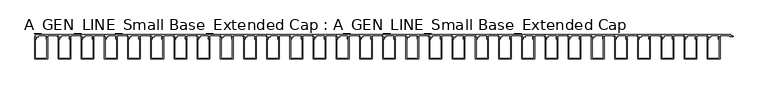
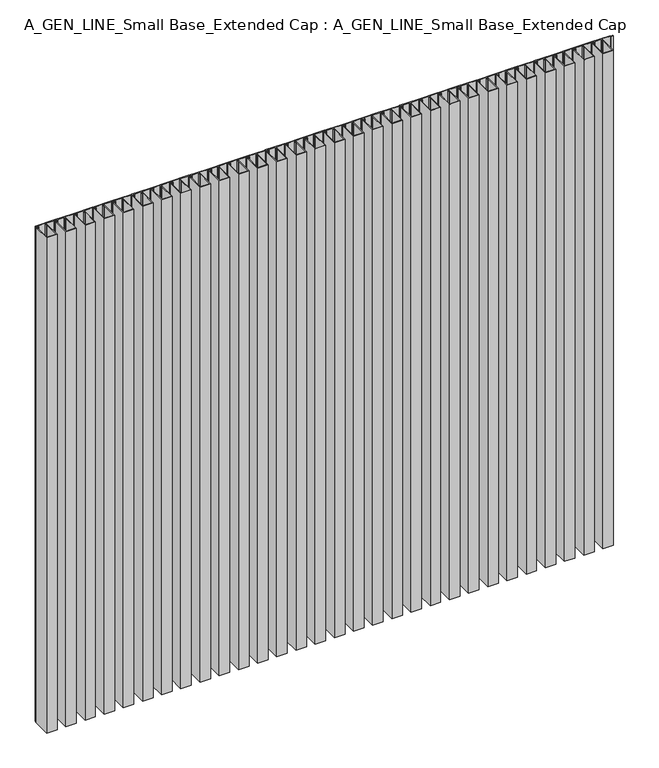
"""IFC4 building model written with IfcOpenShell, lengths in millimetres: proxy geometry, A_GEN_LINE_Small Base_Extended Cap : A_GEN_LINE_Small Base_Extended Cap."""

import ifcopenshell
import ifcopenshell.guid

model = None  # the IFC model being written
_history = None  # IfcOwnerHistory: only IFC2X3 demands one
_inside = {}  # id of a spatial element -> (the spatial element, [elements in it])
_under = {}  # id of a project, library or spatial element -> (it, [spatial elements below it])
_declared = {}  # id of a project -> (the project, [libraries it declares])
_typed = {}  # id of a type object -> (the type object, [elements of that type])
_made_of = {}  # id of a material, layer set ... -> (it, [elements and type objects made of it])


def new_model(schema):
    """Start an empty IFC model of exactly this schema.

    Asked for "IFC4X3", IfcOpenShell would pick the latest addendum, in which some entities
    have other attributes; the version numbers below select the first issue.
    IFC2X3 requires an IfcOwnerHistory on every rooted entity: one is made here for all.
    """
    global model, _history
    if schema == "IFC4X3":
        model = ifcopenshell.file(schema_version=(4, 3, 0, 0))
    else:
        model = ifcopenshell.file(schema=schema)
    _inside.clear()
    _under.clear()
    _declared.clear()
    _typed.clear()
    _made_of.clear()
    _history = None
    if model.schema == "IFC2X3":
        org = make("IfcOrganization", Name="unknown")
        user = make(
            "IfcPersonAndOrganization",
            ThePerson=make("IfcPerson", FamilyName="unknown"),
            TheOrganization=org,
        )
        app = make(
            "IfcApplication",
            ApplicationDeveloper=org,
            Version="unknown",
            ApplicationFullName="unknown",
            ApplicationIdentifier="unknown",
        )
        _history = make(
            "IfcOwnerHistory",
            OwningUser=user,
            OwningApplication=app,
            ChangeAction="ADDED",
            CreationDate=0,
        )
    return model


def make(cls, **values):
    """One entity of the class cls with the attributes given. An attribute that is None is left unset."""
    return model.create_entity(
        cls, **{name: value for name, value in values.items() if value is not None}
    )


def rooted(cls, **values):
    """An entity with a GlobalId (a new one), such as an element, a storey or a relation."""
    return make(cls, GlobalId=ifcopenshell.guid.new(), OwnerHistory=_history, **values)


def si_unit(unit_type, name, prefix=None):
    """IfcSIUnit, for example si_unit("LENGTHUNIT", "METRE", prefix="MILLI")."""
    return make("IfcSIUnit", UnitType=unit_type, Prefix=prefix, Name=name)


def assignment(units):
    """IfcUnitAssignment: the units of a project."""
    return None if units is None else make("IfcUnitAssignment", Units=units)


def point(xyz):
    """IfcCartesianPoint."""
    return None if xyz is None else make("IfcCartesianPoint", Coordinates=xyz)


def direction(xyz):
    """IfcDirection."""
    return None if xyz is None else make("IfcDirection", DirectionRatios=xyz)


def frame(location, z_axis=None, x_axis=None):
    """IfcAxis2Placement3D, a coordinate frame: its origin and axes. An axis left out is left unset."""
    return make(
        "IfcAxis2Placement3D",
        Location=point(location),
        Axis=direction(z_axis),
        RefDirection=direction(x_axis),
    )


def origin():
    """The frame at (0, 0, 0) with its axes left unset."""
    return frame((0.0, 0.0, 0.0))


def origin_with_axes():
    """The frame at (0, 0, 0) with the z axis (0, 0, 1) and the x axis (1, 0, 0) written out."""
    return frame((0.0, 0.0, 0.0), z_axis=(0.0, 0.0, 1.0), x_axis=(1.0, 0.0, 0.0))


def place(relative_to, where):
    """IfcLocalPlacement: puts the frame where relative to a parent placement (None: the world)."""
    return make(
        "IfcLocalPlacement", PlacementRelTo=relative_to, RelativePlacement=where
    )


def context(
    kind, dimensions, precision=None, world=None, true_north=None, identifier=None
):
    """IfcGeometricRepresentationContext, for example the 3D "Model" context."""
    return make(
        "IfcGeometricRepresentationContext",
        ContextIdentifier=identifier,
        ContextType=kind,
        CoordinateSpaceDimension=dimensions,
        Precision=precision,
        WorldCoordinateSystem=world,
        TrueNorth=true_north,
    )


def project(units=None, contexts=None):
    """IfcProject with its units and contexts."""
    return rooted(
        "IfcProject",
        Name="project",
        RepresentationContexts=contexts,
        UnitsInContext=assignment(units),
    )


def spatial(cls, under=None, at=None, **own):
    """A site, building, storey or space (cls), placed at a placement, below another one or the project."""
    s = rooted(cls, ObjectPlacement=at, **own)
    if under is not None:
        _under.setdefault(under.id(), (under, []))[1].append(s)
    return s


def polyline(points):
    """IfcPolyline through the points."""
    return make("IfcPolyline", Points=[point(p) for p in points])


def outline(outer, holes=None, kind="AREA"):
    """IfcArbitraryClosedProfileDef: a profile drawn as a closed curve; with holes, ...WithVoids."""
    if holes is None:
        return make("IfcArbitraryClosedProfileDef", ProfileType=kind, OuterCurve=outer)
    return make(
        "IfcArbitraryProfileDefWithVoids",
        ProfileType=kind,
        OuterCurve=outer,
        InnerCurves=holes,
    )


def extrude(swept, where, along, depth):
    """IfcExtrudedAreaSolid: the profile swept, set in the frame where, extruded along a direction by depth."""
    return make(
        "IfcExtrudedAreaSolid",
        SweptArea=swept,
        Position=where,
        ExtrudedDirection=direction(along),
        Depth=depth,
    )


def shape(context_of_items, identifier, shape_type, items):
    """IfcShapeRepresentation: the items that make up one representation, for example the "Body"."""
    return make(
        "IfcShapeRepresentation",
        ContextOfItems=context_of_items,
        RepresentationIdentifier=identifier,
        RepresentationType=shape_type,
        Items=items,
    )


def source(mapping_origin, context_of_items, identifier, shape_type, items):
    """IfcRepresentationMap: a shape defined once, which mapped items show again and again."""
    return make(
        "IfcRepresentationMap",
        MappingOrigin=mapping_origin,
        MappedRepresentation=shape(context_of_items, identifier, shape_type, items),
    )


def transform(
    local_origin,
    x_axis=None,
    y_axis=None,
    z_axis=None,
    scale=None,
    scale2=None,
    scale3=None,
    uniform=True,
):
    """IfcCartesianTransformationOperator3D, or its non-uniform kind. x_axis, y_axis, z_axis: its Axis1, 2, 3."""
    if uniform:
        return make(
            "IfcCartesianTransformationOperator3D",
            Axis1=direction(x_axis),
            Axis2=direction(y_axis),
            LocalOrigin=point(local_origin),
            Scale=scale,
            Axis3=direction(z_axis),
        )
    return make(
        "IfcCartesianTransformationOperator3DnonUniform",
        Axis1=direction(x_axis),
        Axis2=direction(y_axis),
        LocalOrigin=point(local_origin),
        Scale=scale,
        Axis3=direction(z_axis),
        Scale2=scale2,
        Scale3=scale3,
    )


def mapped(mapping_source, mapping_target):
    """IfcMappedItem: shows the shape of a source again, moved by a transform."""
    return make(
        "IfcMappedItem", MappingSource=mapping_source, MappingTarget=mapping_target
    )


def made_of(thing, what):
    """Note that an element or type object is made of a material, layer set ...; save() writes the relation."""
    if what is not None:
        _made_of.setdefault(what.id(), (what, []))[1].append(thing)
    return thing


def element(
    cls,
    number,
    at=None,
    inside=None,
    cuts=None,
    type_object=None,
    material=None,
    context=None,
    identifier="Body",
    shape_type=None,
    held_by="IfcProductDefinitionShape",
    body=None,
    shapes=None,
    **own,
):
    """One element of the class cls, such as IfcWall. Its Tag is "e" and its number.

    at: its placement. inside: the storey or other place that contains it. cuts: it is an
    opening in that element (IfcRelVoidsElement). A single representation is given by context,
    identifier, shape_type and body (its items); several are given by shapes. held_by: the class
    of the entity that holds the representations. save() writes the other relations.
    """
    e = rooted(cls, Tag="e%d" % number, ObjectPlacement=at, **own)
    if body is not None:
        shapes = [shape(context, identifier, shape_type, body)]
    if shapes is not None:
        e.Representation = make(held_by, Representations=shapes)
    if inside is not None:
        _inside.setdefault(inside.id(), (inside, []))[1].append(e)
    if cuts is not None:
        rooted(
            "IfcRelVoidsElement", RelatingBuildingElement=cuts, RelatedOpeningElement=e
        )
    if type_object is not None:
        _typed.setdefault(type_object.id(), (type_object, []))[1].append(e)
    return made_of(e, material)


def aggregate(whole, parts):
    """IfcRelAggregates: a whole, such as a stair, and the parts it consists of."""
    return rooted("IfcRelAggregates", RelatingObject=whole, RelatedObjects=parts)


def save(model, path):
    """Write the relations noted so far, then the file.

    IfcRelAggregates (storeys below a building ...), IfcRelContainedInSpatialStructure (elements
    in a storey), IfcRelDefinesByType, IfcRelAssociatesMaterial and IfcRelDeclares: one each for
    every whole, place, type object, material and project.
    """
    for whole, parts in _under.values():
        aggregate(whole, parts)
    for where, things in _inside.values():
        rooted(
            "IfcRelContainedInSpatialStructure",
            RelatedElements=things,
            RelatingStructure=where,
        )
    for kind, things in _typed.values():
        rooted("IfcRelDefinesByType", RelatedObjects=things, RelatingType=kind)
    for what, things in _made_of.values():
        rooted("IfcRelAssociatesMaterial", RelatedObjects=things, RelatingMaterial=what)
    for by, libraries in _declared.values():
        rooted("IfcRelDeclares", RelatingContext=by, RelatedDefinitions=libraries)
    model.write(path)


def a_gen_line_small_base_extended_cap_a_gen_line_small_base_7a9827a8(model_context):
    return source(origin(), model_context, "Body", "SweptSolid", [
        extrude(outline(polyline([(1594.5994542, -58.2007192), (1594.5994542, -6.1), (1596.7484612, -6.1), (1596.7484612, -8.3419727), (1595.9994542, -8.5826662), (1595.9994542, -56.8007192), (1623.1994542, -56.8007192), (1623.1994542, -8.5826662), (1622.4504472, -8.3419727), (1622.4504472, -6.1), (1624.5994542, -6.1), (1624.5994542, -58.2007192), (1594.5994542, -58.2007192)])), origin_with_axes(), (0.0, 0.0, 1.0), 1500.0),
        extrude(outline(polyline([(1539.5989548, -58.2007192), (1539.5989548, -6.1), (1541.7479618, -6.1), (1541.7479618, -8.3419727), (1540.9989548, -8.5826662), (1540.9989548, -56.8007192), (1568.1989548, -56.8007192), (1568.1989548, -8.5826662), (1567.4499478, -8.3419727), (1567.4499478, -6.1), (1569.5989548, -6.1), (1569.5989548, -58.2007192), (1539.5989548, -58.2007192)])), origin_with_axes(), (0.0, 0.0, 1.0), 1500.0),
        extrude(outline(polyline([(1484.5984554, -58.2007192), (1484.5984554, -6.1), (1486.7474624, -6.1), (1486.7474624, -8.3419727), (1485.9984554, -8.5826662), (1485.9984554, -56.8007192), (1513.1984554, -56.8007192), (1513.1984554, -8.5826662), (1512.4494485, -8.3419727), (1512.4494485, -6.1), (1514.5984554, -6.1), (1514.5984554, -58.2007192), (1484.5984554, -58.2007192)])), origin_with_axes(), (0.0, 0.0, 1.0), 1500.0),
        extrude(outline(polyline([(1429.597956, -58.2007192), (1429.597956, -6.1), (1431.746963, -6.1), (1431.746963, -8.3419727), (1430.997956, -8.5826662), (1430.997956, -56.8007192), (1458.197956, -56.8007192), (1458.197956, -8.5826662), (1457.4489491, -8.3419727), (1457.4489491, -6.1), (1459.597956, -6.1), (1459.597956, -58.2007192), (1429.597956, -58.2007192)])), origin_with_axes(), (0.0, 0.0, 1.0), 1500.0),
        extrude(outline(polyline([(1374.5974566, -58.2007192), (1374.5974566, -6.1), (1376.7464636, -6.1), (1376.7464636, -8.3419727), (1375.9974566, -8.5826662), (1375.9974566, -56.8007192), (1403.1974566, -56.8007192), (1403.1974566, -8.5826662), (1402.4484497, -8.3419727), (1402.4484497, -6.1), (1404.5974566, -6.1), (1404.5974566, -58.2007192), (1374.5974566, -58.2007192)])), origin_with_axes(), (0.0, 0.0, 1.0), 1500.0),
        extrude(outline(polyline([(1319.5969572, -58.2007192), (1319.5969572, -6.1), (1321.7459642, -6.1), (1321.7459642, -8.3419727), (1320.9969572, -8.5826662), (1320.9969572, -56.8007192), (1348.1969572, -56.8007192), (1348.1969572, -8.5826662), (1347.4479503, -8.3419727), (1347.4479503, -6.1), (1349.5969572, -6.1), (1349.5969572, -58.2007192), (1319.5969572, -58.2007192)])), origin_with_axes(), (0.0, 0.0, 1.0), 1500.0),
        extrude(outline(polyline([(1264.5964579, -58.2007192), (1264.5964579, -6.1), (1266.7454648, -6.1), (1266.7454648, -8.3419727), (1265.9964579, -8.5826662), (1265.9964579, -56.8007192), (1293.1964579, -56.8007192), (1293.1964579, -8.5826662), (1292.4474509, -8.3419727), (1292.4474509, -6.1), (1294.5964579, -6.1), (1294.5964579, -58.2007192), (1264.5964579, -58.2007192)])), origin_with_axes(), (0.0, 0.0, 1.0), 1500.0),
        extrude(outline(polyline([(1209.5959585, -58.2007192), (1209.5959585, -6.1), (1211.7449654, -6.1), (1211.7449654, -8.3419727), (1210.9959585, -8.5826662), (1210.9959585, -56.8007192), (1238.1959585, -56.8007192), (1238.1959585, -8.5826662), (1237.4469515, -8.3419727), (1237.4469515, -6.1), (1239.5959585, -6.1), (1239.5959585, -58.2007192), (1209.5959585, -58.2007192)])), origin_with_axes(), (0.0, 0.0, 1.0), 1500.0),
        extrude(outline(polyline([(1595.0, 0.0), (1649.5728944, 0.0), (1649.5728944, -2.85), (1655.5728944, -2.85), (1655.5728944, -4.2), (1648.0545393, -4.2), (1648.0545393, -2.4), (1624.5849719, -2.4), (1624.5849719, -6.1021884), (1623.4699984, -6.1021884), (1621.8814326, -8.4994005), (1623.1433665, -8.4994005), (1623.1433665, -10.4818695), (1620.9408405, -10.4818695), (1620.9408405, -5.6343123), (1623.0399616, -2.4), (1602.2195527, -2.4), (1602.2195527, -6.1), (1598.2291033, -6.1), (1598.2291033, -10.4818695), (1596.0265772, -10.4818695), (1596.0265772, -8.4994005), (1597.2885111, -8.4994005), (1595.6999453, -6.1021884), (1594.6137598, -6.1021884), (1594.6137598, -4.9), (1601.0195527, -4.9), (1601.0195527, -2.7), (1595.0, -2.7), (1595.0, 0.0)])), origin_with_axes(), (0.0, 0.0, 1.0), 1500.0),
        extrude(outline(polyline([(1540.0, 0.0), (1594.5728944, 0.0), (1594.5728944, -2.85), (1600.5728944, -2.85), (1600.5728944, -4.2), (1593.0545393, -4.2), (1593.0545393, -2.4), (1569.5849719, -2.4), (1569.5849719, -6.1021884), (1568.4699984, -6.1021884), (1566.8814326, -8.4994005), (1568.1433665, -8.4994005), (1568.1433665, -10.4818695), (1565.9408405, -10.4818695), (1565.9408405, -5.6343123), (1568.0399616, -2.4), (1547.2195527, -2.4), (1547.2195527, -6.1), (1543.2291033, -6.1), (1543.2291033, -10.4818695), (1541.0265772, -10.4818695), (1541.0265772, -8.4994005), (1542.2885111, -8.4994005), (1540.6999453, -6.1021884), (1539.6137598, -6.1021884), (1539.6137598, -4.9), (1546.0195527, -4.9), (1546.0195527, -2.7), (1540.0, -2.7), (1540.0, 0.0)])), origin_with_axes(), (0.0, 0.0, 1.0), 1500.0),
        extrude(outline(polyline([(1485.0, 0.0), (1539.5728944, 0.0), (1539.5728944, -2.85), (1545.5728944, -2.85), (1545.5728944, -4.2), (1538.0545393, -4.2), (1538.0545393, -2.4), (1514.5849719, -2.4), (1514.5849719, -6.1021884), (1513.4699984, -6.1021884), (1511.8814326, -8.4994005), (1513.1433665, -8.4994005), (1513.1433665, -10.4818695), (1510.9408405, -10.4818695), (1510.9408405, -5.6343123), (1513.0399616, -2.4), (1492.2195527, -2.4), (1492.2195527, -6.1), (1488.2291033, -6.1), (1488.2291033, -10.4818695), (1486.0265772, -10.4818695), (1486.0265772, -8.4994005), (1487.2885111, -8.4994005), (1485.6999453, -6.1021884), (1484.6137598, -6.1021884), (1484.6137598, -4.9), (1491.0195527, -4.9), (1491.0195527, -2.7), (1485.0, -2.7), (1485.0, 0.0)])), origin_with_axes(), (0.0, 0.0, 1.0), 1500.0),
        extrude(outline(polyline([(1430.0, 0.0), (1484.5728944, 0.0), (1484.5728944, -2.85), (1490.5728944, -2.85), (1490.5728944, -4.2), (1483.0545393, -4.2), (1483.0545393, -2.4), (1459.5849719, -2.4), (1459.5849719, -6.1021884), (1458.4699984, -6.1021884), (1456.8814326, -8.4994005), (1458.1433665, -8.4994005), (1458.1433665, -10.4818695), (1455.9408405, -10.4818695), (1455.9408405, -5.6343123), (1458.0399616, -2.4), (1437.2195527, -2.4), (1437.2195527, -6.1), (1433.2291033, -6.1), (1433.2291033, -10.4818695), (1431.0265772, -10.4818695), (1431.0265772, -8.4994005), (1432.2885111, -8.4994005), (1430.6999453, -6.1021884), (1429.6137598, -6.1021884), (1429.6137598, -4.9), (1436.0195527, -4.9), (1436.0195527, -2.7), (1430.0, -2.7), (1430.0, 0.0)])), origin_with_axes(), (0.0, 0.0, 1.0), 1500.0),
        extrude(outline(polyline([(1375.0, 0.0), (1429.5728944, 0.0), (1429.5728944, -2.85), (1435.5728944, -2.85), (1435.5728944, -4.2), (1428.0545393, -4.2), (1428.0545393, -2.4), (1404.5849719, -2.4), (1404.5849719, -6.1021884), (1403.4699984, -6.1021884), (1401.8814326, -8.4994005), (1403.1433665, -8.4994005), (1403.1433665, -10.4818695), (1400.9408405, -10.4818695), (1400.9408405, -5.6343123), (1403.0399616, -2.4), (1382.2195527, -2.4), (1382.2195527, -6.1), (1378.2291033, -6.1), (1378.2291033, -10.4818695), (1376.0265772, -10.4818695), (1376.0265772, -8.4994005), (1377.2885111, -8.4994005), (1375.6999453, -6.1021884), (1374.6137598, -6.1021884), (1374.6137598, -4.9), (1381.0195527, -4.9), (1381.0195527, -2.7), (1375.0, -2.7), (1375.0, 0.0)])), origin_with_axes(), (0.0, 0.0, 1.0), 1500.0),
        extrude(outline(polyline([(1320.0, 0.0), (1374.5728944, 0.0), (1374.5728944, -2.85), (1380.5728944, -2.85), (1380.5728944, -4.2), (1373.0545393, -4.2), (1373.0545393, -2.4), (1349.5849719, -2.4), (1349.5849719, -6.1021884), (1348.4699984, -6.1021884), (1346.8814326, -8.4994005), (1348.1433665, -8.4994005), (1348.1433665, -10.4818695), (1345.9408405, -10.4818695), (1345.9408405, -5.6343123), (1348.0399616, -2.4), (1327.2195527, -2.4), (1327.2195527, -6.1), (1323.2291033, -6.1), (1323.2291033, -10.4818695), (1321.0265772, -10.4818695), (1321.0265772, -8.4994005), (1322.2885111, -8.4994005), (1320.6999453, -6.1021884), (1319.6137598, -6.1021884), (1319.6137598, -4.9), (1326.0195527, -4.9), (1326.0195527, -2.7), (1320.0, -2.7), (1320.0, 0.0)])), origin_with_axes(), (0.0, 0.0, 1.0), 1500.0),
        extrude(outline(polyline([(1265.0, 0.0), (1319.5728944, 0.0), (1319.5728944, -2.85), (1325.5728944, -2.85), (1325.5728944, -4.2), (1318.0545393, -4.2), (1318.0545393, -2.4), (1294.5849719, -2.4), (1294.5849719, -6.1021884), (1293.4699984, -6.1021884), (1291.8814326, -8.4994005), (1293.1433665, -8.4994005), (1293.1433665, -10.4818695), (1290.9408405, -10.4818695), (1290.9408405, -5.6343123), (1293.0399616, -2.4), (1272.2195527, -2.4), (1272.2195527, -6.1), (1268.2291033, -6.1), (1268.2291033, -10.4818695), (1266.0265772, -10.4818695), (1266.0265772, -8.4994005), (1267.2885111, -8.4994005), (1265.6999453, -6.1021884), (1264.6137598, -6.1021884), (1264.6137598, -4.9), (1271.0195527, -4.9), (1271.0195527, -2.7), (1265.0, -2.7), (1265.0, 0.0)])), origin_with_axes(), (0.0, 0.0, 1.0), 1500.0),
        extrude(outline(polyline([(1210.0, 0.0), (1264.5728944, 0.0), (1264.5728944, -2.85), (1270.5728944, -2.85), (1270.5728944, -4.2), (1263.0545393, -4.2), (1263.0545393, -2.4), (1239.5849719, -2.4), (1239.5849719, -6.1021884), (1238.4699984, -6.1021884), (1236.8814326, -8.4994005), (1238.1433665, -8.4994005), (1238.1433665, -10.4818695), (1235.9408405, -10.4818695), (1235.9408405, -5.6343123), (1238.0399616, -2.4), (1217.2195527, -2.4), (1217.2195527, -6.1), (1213.2291033, -6.1), (1213.2291033, -10.4818695), (1211.0265772, -10.4818695), (1211.0265772, -8.4994005), (1212.2885111, -8.4994005), (1210.6999453, -6.1021884), (1209.6137598, -6.1021884), (1209.6137598, -4.9), (1216.0195527, -4.9), (1216.0195527, -2.7), (1210.0, -2.7), (1210.0, 0.0)])), origin_with_axes(), (0.0, 0.0, 1.0), 1500.0),
        extrude(outline(polyline([(1154.5954591, -58.2007192), (1154.5954591, -6.1), (1156.744466, -6.1), (1156.744466, -8.3419727), (1155.9954591, -8.5826662), (1155.9954591, -56.8007192), (1183.1954591, -56.8007192), (1183.1954591, -8.5826662), (1182.4464521, -8.3419727), (1182.4464521, -6.1), (1184.5954591, -6.1), (1184.5954591, -58.2007192), (1154.5954591, -58.2007192)])), origin_with_axes(), (0.0, 0.0, 1.0), 1500.0),
        extrude(outline(polyline([(1099.5949597, -58.2007192), (1099.5949597, -6.1), (1101.7439666, -6.1), (1101.7439666, -8.3419727), (1100.9949597, -8.5826662), (1100.9949597, -56.8007192), (1128.1949597, -56.8007192), (1128.1949597, -8.5826662), (1127.4459527, -8.3419727), (1127.4459527, -6.1), (1129.5949597, -6.1), (1129.5949597, -58.2007192), (1099.5949597, -58.2007192)])), origin_with_axes(), (0.0, 0.0, 1.0), 1500.0),
        extrude(outline(polyline([(1044.5944603, -58.2007192), (1044.5944603, -6.1), (1046.7434673, -6.1), (1046.7434673, -8.3419727), (1045.9944603, -8.5826662), (1045.9944603, -56.8007192), (1073.1944603, -56.8007192), (1073.1944603, -8.5826662), (1072.4454533, -8.3419727), (1072.4454533, -6.1), (1074.5944603, -6.1), (1074.5944603, -58.2007192), (1044.5944603, -58.2007192)])), origin_with_axes(), (0.0, 0.0, 1.0), 1500.0),
        extrude(outline(polyline([(989.5939609, -58.2007192), (989.5939609, -6.1), (991.7429679, -6.1), (991.7429679, -8.3419727), (990.9939609, -8.5826662), (990.9939609, -56.8007192), (1018.1939609, -56.8007192), (1018.1939609, -8.5826662), (1017.4449539, -8.3419727), (1017.4449539, -6.1), (1019.5939609, -6.1), (1019.5939609, -58.2007192), (989.5939609, -58.2007192)])), origin_with_axes(), (0.0, 0.0, 1.0), 1500.0),
        extrude(outline(polyline([(934.5934615, -58.2007192), (934.5934615, -6.1), (936.7424685, -6.1), (936.7424685, -8.3419727), (935.9934615, -8.5826662), (935.9934615, -56.8007192), (963.1934615, -56.8007192), (963.1934615, -8.5826662), (962.4444546, -8.3419727), (962.4444546, -6.1), (964.5934615, -6.1), (964.5934615, -58.2007192), (934.5934615, -58.2007192)])), origin_with_axes(), (0.0, 0.0, 1.0), 1500.0),
        extrude(outline(polyline([(879.5929621, -58.2007192), (879.5929621, -6.1), (881.7419691, -6.1), (881.7419691, -8.3419727), (880.9929621, -8.5826662), (880.9929621, -56.8007192), (908.1929621, -56.8007192), (908.1929621, -8.5826662), (907.4439552, -8.3419727), (907.4439552, -6.1), (909.5929621, -6.1), (909.5929621, -58.2007192), (879.5929621, -58.2007192)])), origin_with_axes(), (0.0, 0.0, 1.0), 1500.0),
        extrude(outline(polyline([(824.5924627, -58.2007192), (824.5924627, -6.1), (826.7414697, -6.1), (826.7414697, -8.3419727), (825.9924627, -8.5826662), (825.9924627, -56.8007192), (853.1924627, -56.8007192), (853.1924627, -8.5826662), (852.4434558, -8.3419727), (852.4434558, -6.1), (854.5924627, -6.1), (854.5924627, -58.2007192), (824.5924627, -58.2007192)])), origin_with_axes(), (0.0, 0.0, 1.0), 1500.0),
        extrude(outline(polyline([(769.5919633, -58.2007192), (769.5919633, -6.1), (771.7409703, -6.1), (771.7409703, -8.3419727), (770.9919633, -8.5826662), (770.9919633, -56.8007192), (798.1919633, -56.8007192), (798.1919633, -8.5826662), (797.4429564, -8.3419727), (797.4429564, -6.1), (799.5919633, -6.1), (799.5919633, -58.2007192), (769.5919633, -58.2007192)])), origin_with_axes(), (0.0, 0.0, 1.0), 1500.0),
        extrude(outline(polyline([(714.5914639, -58.2007192), (714.5914639, -6.1), (716.7404709, -6.1), (716.7404709, -8.3419727), (715.9914639, -8.5826662), (715.9914639, -56.8007192), (743.1914639, -56.8007192), (743.1914639, -8.5826662), (742.442457, -8.3419727), (742.442457, -6.1), (744.5914639, -6.1), (744.5914639, -58.2007192), (714.5914639, -58.2007192)])), origin_with_axes(), (0.0, 0.0, 1.0), 1500.0),
        extrude(outline(polyline([(659.5909646, -58.2007192), (659.5909646, -6.1), (661.7399715, -6.1), (661.7399715, -8.3419727), (660.9909646, -8.5826662), (660.9909646, -56.8007192), (688.1909646, -56.8007192), (688.1909646, -8.5826662), (687.4419576, -8.3419727), (687.4419576, -6.1), (689.5909646, -6.1), (689.5909646, -58.2007192), (659.5909646, -58.2007192)])), origin_with_axes(), (0.0, 0.0, 1.0), 1500.0),
        extrude(outline(polyline([(604.5904652, -58.2007192), (604.5904652, -6.1), (606.7394721, -6.1), (606.7394721, -8.3419727), (605.9904652, -8.5826662), (605.9904652, -56.8007192), (633.1904652, -56.8007192), (633.1904652, -8.5826662), (632.4414582, -8.3419727), (632.4414582, -6.1), (634.5904652, -6.1), (634.5904652, -58.2007192), (604.5904652, -58.2007192)])), origin_with_axes(), (0.0, 0.0, 1.0), 1500.0),
        extrude(outline(polyline([(549.5899658, -58.2007192), (549.5899658, -6.1), (551.7389727, -6.1), (551.7389727, -8.3419727), (550.9899658, -8.5826662), (550.9899658, -56.8007192), (578.1899658, -56.8007192), (578.1899658, -8.5826662), (577.4409588, -8.3419727), (577.4409588, -6.1), (579.5899658, -6.1), (579.5899658, -58.2007192), (549.5899658, -58.2007192)])), origin_with_axes(), (0.0, 0.0, 1.0), 1500.0),
        extrude(outline(polyline([(494.5894664, -58.2007192), (494.5894664, -6.1), (496.7384733, -6.1), (496.7384733, -8.3419727), (495.9894664, -8.5826662), (495.9894664, -56.8007192), (523.1894664, -56.8007192), (523.1894664, -8.5826662), (522.4404594, -8.3419727), (522.4404594, -6.1), (524.5894664, -6.1), (524.5894664, -58.2007192), (494.5894664, -58.2007192)])), origin_with_axes(), (0.0, 0.0, 1.0), 1500.0),
        extrude(outline(polyline([(439.588967, -58.2007192), (439.588967, -6.1), (441.737974, -6.1), (441.737974, -8.3419727), (440.988967, -8.5826662), (440.988967, -56.8007192), (468.188967, -56.8007192), (468.188967, -8.5826662), (467.43996, -8.3419727), (467.43996, -6.1), (469.588967, -6.1), (469.588967, -58.2007192), (439.588967, -58.2007192)])), origin_with_axes(), (0.0, 0.0, 1.0), 1500.0),
        extrude(outline(polyline([(384.5884676, -58.2007192), (384.5884676, -6.1), (386.7374746, -6.1), (386.7374746, -8.3419727), (385.9884676, -8.5826662), (385.9884676, -56.8007192), (413.1884676, -56.8007192), (413.1884676, -8.5826662), (412.4394606, -8.3419727), (412.4394606, -6.1), (414.5884676, -6.1), (414.5884676, -58.2007192), (384.5884676, -58.2007192)])), origin_with_axes(), (0.0, 0.0, 1.0), 1500.0),
        extrude(outline(polyline([(1155.0, 0.0), (1209.5728944, 0.0), (1209.5728944, -2.85), (1215.5728944, -2.85), (1215.5728944, -4.2), (1208.0545393, -4.2), (1208.0545393, -2.4), (1184.5849719, -2.4), (1184.5849719, -6.1021884), (1183.4699984, -6.1021884), (1181.8814326, -8.4994005), (1183.1433665, -8.4994005), (1183.1433665, -10.4818695), (1180.9408405, -10.4818695), (1180.9408405, -5.6343123), (1183.0399616, -2.4), (1162.2195527, -2.4), (1162.2195527, -6.1), (1158.2291033, -6.1), (1158.2291033, -10.4818695), (1156.0265772, -10.4818695), (1156.0265772, -8.4994005), (1157.2885111, -8.4994005), (1155.6999453, -6.1021884), (1154.6137598, -6.1021884), (1154.6137598, -4.9), (1161.0195527, -4.9), (1161.0195527, -2.7), (1155.0, -2.7), (1155.0, 0.0)])), origin_with_axes(), (0.0, 0.0, 1.0), 1500.0),
        extrude(outline(polyline([(1100.0, 0.0), (1154.5728944, 0.0), (1154.5728944, -2.85), (1160.5728944, -2.85), (1160.5728944, -4.2), (1153.0545393, -4.2), (1153.0545393, -2.4), (1129.5849719, -2.4), (1129.5849719, -6.1021884), (1128.4699984, -6.1021884), (1126.8814326, -8.4994005), (1128.1433665, -8.4994005), (1128.1433665, -10.4818695), (1125.9408405, -10.4818695), (1125.9408405, -5.6343123), (1128.0399616, -2.4), (1107.2195527, -2.4), (1107.2195527, -6.1), (1103.2291033, -6.1), (1103.2291033, -10.4818695), (1101.0265772, -10.4818695), (1101.0265772, -8.4994005), (1102.2885111, -8.4994005), (1100.6999453, -6.1021884), (1099.6137598, -6.1021884), (1099.6137598, -4.9), (1106.0195527, -4.9), (1106.0195527, -2.7), (1100.0, -2.7), (1100.0, 0.0)])), origin_with_axes(), (0.0, 0.0, 1.0), 1500.0),
        extrude(outline(polyline([(1045.0, 0.0), (1099.5728944, 0.0), (1099.5728944, -2.85), (1105.5728944, -2.85), (1105.5728944, -4.2), (1098.0545393, -4.2), (1098.0545393, -2.4), (1074.5849719, -2.4), (1074.5849719, -6.1021884), (1073.4699984, -6.1021884), (1071.8814326, -8.4994005), (1073.1433665, -8.4994005), (1073.1433665, -10.4818695), (1070.9408405, -10.4818695), (1070.9408405, -5.6343123), (1073.0399616, -2.4), (1052.2195527, -2.4), (1052.2195527, -6.1), (1048.2291033, -6.1), (1048.2291033, -10.4818695), (1046.0265772, -10.4818695), (1046.0265772, -8.4994005), (1047.2885111, -8.4994005), (1045.6999453, -6.1021884), (1044.6137598, -6.1021884), (1044.6137598, -4.9), (1051.0195527, -4.9), (1051.0195527, -2.7), (1045.0, -2.7), (1045.0, 0.0)])), origin_with_axes(), (0.0, 0.0, 1.0), 1500.0),
        extrude(outline(polyline([(990.0, 0.0), (1044.5728944, 0.0), (1044.5728944, -2.85), (1050.5728944, -2.85), (1050.5728944, -4.2), (1043.0545393, -4.2), (1043.0545393, -2.4), (1019.5849719, -2.4), (1019.5849719, -6.1021884), (1018.4699984, -6.1021884), (1016.8814326, -8.4994005), (1018.1433665, -8.4994005), (1018.1433665, -10.4818695), (1015.9408405, -10.4818695), (1015.9408405, -5.6343123), (1018.0399616, -2.4), (997.2195527, -2.4), (997.2195527, -6.1), (993.2291033, -6.1), (993.2291033, -10.4818695), (991.0265772, -10.4818695), (991.0265772, -8.4994005), (992.2885111, -8.4994005), (990.6999453, -6.1021884), (989.6137598, -6.1021884), (989.6137598, -4.9), (996.0195527, -4.9), (996.0195527, -2.7), (990.0, -2.7), (990.0, 0.0)])), origin_with_axes(), (0.0, 0.0, 1.0), 1500.0),
        extrude(outline(polyline([(935.0, 0.0), (989.5728944, 0.0), (989.5728944, -2.85), (995.5728944, -2.85), (995.5728944, -4.2), (988.0545393, -4.2), (988.0545393, -2.4), (964.5849719, -2.4), (964.5849719, -6.1021884), (963.4699984, -6.1021884), (961.8814326, -8.4994005), (963.1433665, -8.4994005), (963.1433665, -10.4818695), (960.9408405, -10.4818695), (960.9408405, -5.6343123), (963.0399616, -2.4), (942.2195527, -2.4), (942.2195527, -6.1), (938.2291033, -6.1), (938.2291033, -10.4818695), (936.0265772, -10.4818695), (936.0265772, -8.4994005), (937.2885111, -8.4994005), (935.6999453, -6.1021884), (934.6137598, -6.1021884), (934.6137598, -4.9), (941.0195527, -4.9), (941.0195527, -2.7), (935.0, -2.7), (935.0, 0.0)])), origin_with_axes(), (0.0, 0.0, 1.0), 1500.0),
        extrude(outline(polyline([(880.0, 0.0), (934.5728944, 0.0), (934.5728944, -2.85), (940.5728944, -2.85), (940.5728944, -4.2), (933.0545393, -4.2), (933.0545393, -2.4), (909.5849719, -2.4), (909.5849719, -6.1021884), (908.4699984, -6.1021884), (906.8814326, -8.4994005), (908.1433665, -8.4994005), (908.1433665, -10.4818695), (905.9408405, -10.4818695), (905.9408405, -5.6343123), (908.0399616, -2.4), (887.2195527, -2.4), (887.2195527, -6.1), (883.2291033, -6.1), (883.2291033, -10.4818695), (881.0265772, -10.4818695), (881.0265772, -8.4994005), (882.2885111, -8.4994005), (880.6999453, -6.1021884), (879.6137598, -6.1021884), (879.6137598, -4.9), (886.0195527, -4.9), (886.0195527, -2.7), (880.0, -2.7), (880.0, 0.0)])), origin_with_axes(), (0.0, 0.0, 1.0), 1500.0),
        extrude(outline(polyline([(825.0, 0.0), (879.5728944, 0.0), (879.5728944, -2.85), (885.5728944, -2.85), (885.5728944, -4.2), (878.0545393, -4.2), (878.0545393, -2.4), (854.5849719, -2.4), (854.5849719, -6.1021884), (853.4699984, -6.1021884), (851.8814326, -8.4994005), (853.1433665, -8.4994005), (853.1433665, -10.4818695), (850.9408405, -10.4818695), (850.9408405, -5.6343123), (853.0399616, -2.4), (832.2195527, -2.4), (832.2195527, -6.1), (828.2291033, -6.1), (828.2291033, -10.4818695), (826.0265772, -10.4818695), (826.0265772, -8.4994005), (827.2885111, -8.4994005), (825.6999453, -6.1021884), (824.6137598, -6.1021884), (824.6137598, -4.9), (831.0195527, -4.9), (831.0195527, -2.7), (825.0, -2.7), (825.0, 0.0)])), origin_with_axes(), (0.0, 0.0, 1.0), 1500.0),
        extrude(outline(polyline([(770.0, 0.0), (824.5728944, 0.0), (824.5728944, -2.85), (830.5728944, -2.85), (830.5728944, -4.2), (823.0545393, -4.2), (823.0545393, -2.4), (799.5849719, -2.4), (799.5849719, -6.1021884), (798.4699984, -6.1021884), (796.8814326, -8.4994005), (798.1433665, -8.4994005), (798.1433665, -10.4818695), (795.9408405, -10.4818695), (795.9408405, -5.6343123), (798.0399616, -2.4), (777.2195527, -2.4), (777.2195527, -6.1), (773.2291033, -6.1), (773.2291033, -10.4818695), (771.0265772, -10.4818695), (771.0265772, -8.4994005), (772.2885111, -8.4994005), (770.6999453, -6.1021884), (769.6137598, -6.1021884), (769.6137598, -4.9), (776.0195527, -4.9), (776.0195527, -2.7), (770.0, -2.7), (770.0, 0.0)])), origin_with_axes(), (0.0, 0.0, 1.0), 1500.0),
        extrude(outline(polyline([(715.0, 0.0), (769.5728944, 0.0), (769.5728944, -2.85), (775.5728944, -2.85), (775.5728944, -4.2), (768.0545393, -4.2), (768.0545393, -2.4), (744.5849719, -2.4), (744.5849719, -6.1021884), (743.4699984, -6.1021884), (741.8814326, -8.4994005), (743.1433665, -8.4994005), (743.1433665, -10.4818695), (740.9408405, -10.4818695), (740.9408405, -5.6343123), (743.0399616, -2.4), (722.2195527, -2.4), (722.2195527, -6.1), (718.2291033, -6.1), (718.2291033, -10.4818695), (716.0265772, -10.4818695), (716.0265772, -8.4994005), (717.2885111, -8.4994005), (715.6999453, -6.1021884), (714.6137598, -6.1021884), (714.6137598, -4.9), (721.0195527, -4.9), (721.0195527, -2.7), (715.0, -2.7), (715.0, 0.0)])), origin_with_axes(), (0.0, 0.0, 1.0), 1500.0),
        extrude(outline(polyline([(660.0, 0.0), (714.5728944, 0.0), (714.5728944, -2.85), (720.5728944, -2.85), (720.5728944, -4.2), (713.0545393, -4.2), (713.0545393, -2.4), (689.5849719, -2.4), (689.5849719, -6.1021884), (688.4699984, -6.1021884), (686.8814326, -8.4994005), (688.1433665, -8.4994005), (688.1433665, -10.4818695), (685.9408405, -10.4818695), (685.9408405, -5.6343123), (688.0399616, -2.4), (667.2195527, -2.4), (667.2195527, -6.1), (663.2291033, -6.1), (663.2291033, -10.4818695), (661.0265772, -10.4818695), (661.0265772, -8.4994005), (662.2885111, -8.4994005), (660.6999453, -6.1021884), (659.6137598, -6.1021884), (659.6137598, -4.9), (666.0195527, -4.9), (666.0195527, -2.7), (660.0, -2.7), (660.0, 0.0)])), origin_with_axes(), (0.0, 0.0, 1.0), 1500.0),
        extrude(outline(polyline([(605.0, 0.0), (659.5728944, 0.0), (659.5728944, -2.85), (665.5728944, -2.85), (665.5728944, -4.2), (658.0545393, -4.2), (658.0545393, -2.4), (634.5849719, -2.4), (634.5849719, -6.1021884), (633.4699984, -6.1021884), (631.8814326, -8.4994005), (633.1433665, -8.4994005), (633.1433665, -10.4818695), (630.9408405, -10.4818695), (630.9408405, -5.6343123), (633.0399616, -2.4), (612.2195527, -2.4), (612.2195527, -6.1), (608.2291033, -6.1), (608.2291033, -10.4818695), (606.0265772, -10.4818695), (606.0265772, -8.4994005), (607.2885111, -8.4994005), (605.6999453, -6.1021884), (604.6137598, -6.1021884), (604.6137598, -4.9), (611.0195527, -4.9), (611.0195527, -2.7), (605.0, -2.7), (605.0, 0.0)])), origin_with_axes(), (0.0, 0.0, 1.0), 1500.0),
        extrude(outline(polyline([(550.0, 0.0), (604.5728944, 0.0), (604.5728944, -2.85), (610.5728944, -2.85), (610.5728944, -4.2), (603.0545393, -4.2), (603.0545393, -2.4), (579.5849719, -2.4), (579.5849719, -6.1021884), (578.4699984, -6.1021884), (576.8814326, -8.4994005), (578.1433665, -8.4994005), (578.1433665, -10.4818695), (575.9408405, -10.4818695), (575.9408405, -5.6343123), (578.0399616, -2.4), (557.2195527, -2.4), (557.2195527, -6.1), (553.2291033, -6.1), (553.2291033, -10.4818695), (551.0265772, -10.4818695), (551.0265772, -8.4994005), (552.2885111, -8.4994005), (550.6999453, -6.1021884), (549.6137598, -6.1021884), (549.6137598, -4.9), (556.0195527, -4.9), (556.0195527, -2.7), (550.0, -2.7), (550.0, 0.0)])), origin_with_axes(), (0.0, 0.0, 1.0), 1500.0),
        extrude(outline(polyline([(495.0, 0.0), (549.5728944, 0.0), (549.5728944, -2.85), (555.5728944, -2.85), (555.5728944, -4.2), (548.0545393, -4.2), (548.0545393, -2.4), (524.5849719, -2.4), (524.5849719, -6.1021884), (523.4699984, -6.1021884), (521.8814326, -8.4994005), (523.1433665, -8.4994005), (523.1433665, -10.4818695), (520.9408405, -10.4818695), (520.9408405, -5.6343123), (523.0399616, -2.4), (502.2195527, -2.4), (502.2195527, -6.1), (498.2291033, -6.1), (498.2291033, -10.4818695), (496.0265772, -10.4818695), (496.0265772, -8.4994005), (497.2885111, -8.4994005), (495.6999453, -6.1021884), (494.6137598, -6.1021884), (494.6137598, -4.9), (501.0195527, -4.9), (501.0195527, -2.7), (495.0, -2.7), (495.0, 0.0)])), origin_with_axes(), (0.0, 0.0, 1.0), 1500.0),
        extrude(outline(polyline([(440.0, 0.0), (494.5728944, 0.0), (494.5728944, -2.85), (500.5728944, -2.85), (500.5728944, -4.2), (493.0545393, -4.2), (493.0545393, -2.4), (469.5849719, -2.4), (469.5849719, -6.1021884), (468.4699984, -6.1021884), (466.8814326, -8.4994005), (468.1433665, -8.4994005), (468.1433665, -10.4818695), (465.9408405, -10.4818695), (465.9408405, -5.6343123), (468.0399616, -2.4), (447.2195527, -2.4), (447.2195527, -6.1), (443.2291033, -6.1), (443.2291033, -10.4818695), (441.0265772, -10.4818695), (441.0265772, -8.4994005), (442.2885111, -8.4994005), (440.6999453, -6.1021884), (439.6137598, -6.1021884), (439.6137598, -4.9), (446.0195527, -4.9), (446.0195527, -2.7), (440.0, -2.7), (440.0, 0.0)])), origin_with_axes(), (0.0, 0.0, 1.0), 1500.0),
        extrude(outline(polyline([(385.0, 0.0), (439.5728944, 0.0), (439.5728944, -2.85), (445.5728944, -2.85), (445.5728944, -4.2), (438.0545393, -4.2), (438.0545393, -2.4), (414.5849719, -2.4), (414.5849719, -6.1021884), (413.4699984, -6.1021884), (411.8814326, -8.4994005), (413.1433665, -8.4994005), (413.1433665, -10.4818695), (410.9408405, -10.4818695), (410.9408405, -5.6343123), (413.0399616, -2.4), (392.2195527, -2.4), (392.2195527, -6.1), (388.2291033, -6.1), (388.2291033, -10.4818695), (386.0265772, -10.4818695), (386.0265772, -8.4994005), (387.2885111, -8.4994005), (385.6999453, -6.1021884), (384.6137598, -6.1021884), (384.6137598, -4.9), (391.0195527, -4.9), (391.0195527, -2.7), (385.0, -2.7), (385.0, 0.0)])), origin_with_axes(), (0.0, 0.0, 1.0), 1500.0),
        extrude(outline(polyline([(329.5879682, -58.2007192), (329.5879682, -6.1), (331.7369752, -6.1), (331.7369752, -8.3419727), (330.9879682, -8.5826662), (330.9879682, -56.8007192), (358.1879682, -56.8007192), (358.1879682, -8.5826662), (357.4389613, -8.3419727), (357.4389613, -6.1), (359.5879682, -6.1), (359.5879682, -58.2007192), (329.5879682, -58.2007192)])), origin_with_axes(), (0.0, 0.0, 1.0), 1500.0),
        extrude(outline(polyline([(274.5874688, -58.2007192), (274.5874688, -6.1), (276.7364758, -6.1), (276.7364758, -8.3419727), (275.9874688, -8.5826662), (275.9874688, -56.8007192), (303.1874688, -56.8007192), (303.1874688, -8.5826662), (302.4384619, -8.3419727), (302.4384619, -6.1), (304.5874688, -6.1), (304.5874688, -58.2007192), (274.5874688, -58.2007192)])), origin_with_axes(), (0.0, 0.0, 1.0), 1500.0),
        extrude(outline(polyline([(219.5869694, -58.2007192), (219.5869694, -6.1), (221.7359764, -6.1), (221.7359764, -8.3419727), (220.9869694, -8.5826662), (220.9869694, -56.8007192), (248.1869694, -56.8007192), (248.1869694, -8.5826662), (247.4379625, -8.3419727), (247.4379625, -6.1), (249.5869694, -6.1), (249.5869694, -58.2007192), (219.5869694, -58.2007192)])), origin_with_axes(), (0.0, 0.0, 1.0), 1500.0),
        extrude(outline(polyline([(164.58647, -58.2007192), (164.58647, -6.1), (166.735477, -6.1), (166.735477, -8.3419727), (165.98647, -8.5826662), (165.98647, -56.8007192), (193.18647, -56.8007192), (193.18647, -8.5826662), (192.4374631, -8.3419727), (192.4374631, -6.1), (194.58647, -6.1), (194.58647, -58.2007192), (164.58647, -58.2007192)])), origin_with_axes(), (0.0, 0.0, 1.0), 1500.0),
        extrude(outline(polyline([(109.5859707, -58.2007192), (109.5859707, -6.1), (111.7349776, -6.1), (111.7349776, -8.3419727), (110.9859707, -8.5826662), (110.9859707, -56.8007192), (138.1859707, -56.8007192), (138.1859707, -8.5826662), (137.4369637, -8.3419727), (137.4369637, -6.1), (139.5859707, -6.1), (139.5859707, -58.2007192), (109.5859707, -58.2007192)])), origin_with_axes(), (0.0, 0.0, 1.0), 1500.0),
        extrude(outline(polyline([(54.5854713, -58.2007192), (54.5854713, -6.1), (56.7344782, -6.1), (56.7344782, -8.3419727), (55.9854713, -8.5826662), (55.9854713, -56.8007192), (83.1854713, -56.8007192), (83.1854713, -8.5826662), (82.4364643, -8.3419727), (82.4364643, -6.1), (84.5854713, -6.1), (84.5854713, -58.2007192), (54.5854713, -58.2007192)])), origin_with_axes(), (0.0, 0.0, 1.0), 1500.0),
        extrude(outline(polyline([(-0.4150281, -58.2007192), (-0.4150281, -6.1), (1.7339788, -6.1), (1.7339788, -8.3419727), (0.9849719, -8.5826662), (0.9849719, -56.8007192), (28.1849719, -56.8007192), (28.1849719, -8.5826662), (27.4359649, -8.3419727), (27.4359649, -6.1), (29.5849719, -6.1), (29.5849719, -58.2007192), (-0.4150281, -58.2007192)])), origin_with_axes(), (0.0, 0.0, 1.0), 1500.0),
        extrude(outline(polyline([(330.0, 0.0), (384.5728944, 0.0), (384.5728944, -2.85), (390.5728944, -2.85), (390.5728944, -4.2), (383.0545393, -4.2), (383.0545393, -2.4), (359.5849719, -2.4), (359.5849719, -6.1021884), (358.4699984, -6.1021884), (356.8814326, -8.4994005), (358.1433665, -8.4994005), (358.1433665, -10.4818695), (355.9408405, -10.4818695), (355.9408405, -5.6343123), (358.0399616, -2.4), (337.2195527, -2.4), (337.2195527, -6.1), (333.2291033, -6.1), (333.2291033, -10.4818695), (331.0265772, -10.4818695), (331.0265772, -8.4994005), (332.2885111, -8.4994005), (330.6999453, -6.1021884), (329.6137598, -6.1021884), (329.6137598, -4.9), (336.0195527, -4.9), (336.0195527, -2.7), (330.0, -2.7), (330.0, 0.0)])), origin_with_axes(), (0.0, 0.0, 1.0), 1500.0),
        extrude(outline(polyline([(275.0, 0.0), (329.5728944, 0.0), (329.5728944, -2.85), (335.5728944, -2.85), (335.5728944, -4.2), (328.0545393, -4.2), (328.0545393, -2.4), (304.5849719, -2.4), (304.5849719, -6.1021884), (303.4699984, -6.1021884), (301.8814326, -8.4994005), (303.1433665, -8.4994005), (303.1433665, -10.4818695), (300.9408405, -10.4818695), (300.9408405, -5.6343123), (303.0399616, -2.4), (282.2195527, -2.4), (282.2195527, -6.1), (278.2291033, -6.1), (278.2291033, -10.4818695), (276.0265772, -10.4818695), (276.0265772, -8.4994005), (277.2885111, -8.4994005), (275.6999453, -6.1021884), (274.6137598, -6.1021884), (274.6137598, -4.9), (281.0195527, -4.9), (281.0195527, -2.7), (275.0, -2.7), (275.0, 0.0)])), origin_with_axes(), (0.0, 0.0, 1.0), 1500.0),
        extrude(outline(polyline([(220.0, 0.0), (274.5728944, 0.0), (274.5728944, -2.85), (280.5728944, -2.85), (280.5728944, -4.2), (273.0545393, -4.2), (273.0545393, -2.4), (249.5849719, -2.4), (249.5849719, -6.1021884), (248.4699984, -6.1021884), (246.8814326, -8.4994005), (248.1433665, -8.4994005), (248.1433665, -10.4818695), (245.9408405, -10.4818695), (245.9408405, -5.6343123), (248.0399616, -2.4), (227.2195527, -2.4), (227.2195527, -6.1), (223.2291033, -6.1), (223.2291033, -10.4818695), (221.0265772, -10.4818695), (221.0265772, -8.4994005), (222.2885111, -8.4994005), (220.6999453, -6.1021884), (219.6137598, -6.1021884), (219.6137598, -4.9), (226.0195527, -4.9), (226.0195527, -2.7), (220.0, -2.7), (220.0, 0.0)])), origin_with_axes(), (0.0, 0.0, 1.0), 1500.0),
        extrude(outline(polyline([(165.0, 0.0), (219.5728944, 0.0), (219.5728944, -2.85), (225.5728944, -2.85), (225.5728944, -4.2), (218.0545393, -4.2), (218.0545393, -2.4), (194.5849719, -2.4), (194.5849719, -6.1021884), (193.4699984, -6.1021884), (191.8814326, -8.4994005), (193.1433665, -8.4994005), (193.1433665, -10.4818695), (190.9408405, -10.4818695), (190.9408405, -5.6343123), (193.0399616, -2.4), (172.2195527, -2.4), (172.2195527, -6.1), (168.2291033, -6.1), (168.2291033, -10.4818695), (166.0265772, -10.4818695), (166.0265772, -8.4994005), (167.2885111, -8.4994005), (165.6999453, -6.1021884), (164.6137598, -6.1021884), (164.6137598, -4.9), (171.0195527, -4.9), (171.0195527, -2.7), (165.0, -2.7), (165.0, 0.0)])), origin_with_axes(), (0.0, 0.0, 1.0), 1500.0),
        extrude(outline(polyline([(110.0, 0.0), (164.5728944, 0.0), (164.5728944, -2.85), (170.5728944, -2.85), (170.5728944, -4.2), (163.0545393, -4.2), (163.0545393, -2.4), (139.5849719, -2.4), (139.5849719, -6.1021884), (138.4699984, -6.1021884), (136.8814326, -8.4994005), (138.1433665, -8.4994005), (138.1433665, -10.4818695), (135.9408405, -10.4818695), (135.9408405, -5.6343123), (138.0399616, -2.4), (117.2195527, -2.4), (117.2195527, -6.1), (113.2291033, -6.1), (113.2291033, -10.4818695), (111.0265772, -10.4818695), (111.0265772, -8.4994005), (112.2885111, -8.4994005), (110.6999453, -6.1021884), (109.6137598, -6.1021884), (109.6137598, -4.9), (116.0195527, -4.9), (116.0195527, -2.7), (110.0, -2.7), (110.0, 0.0)])), origin_with_axes(), (0.0, 0.0, 1.0), 1500.0),
        extrude(outline(polyline([(55.0, 0.0), (109.5728944, 0.0), (109.5728944, -2.85), (115.5728944, -2.85), (115.5728944, -4.2), (108.0545393, -4.2), (108.0545393, -2.4), (84.5849719, -2.4), (84.5849719, -6.1021884), (83.4699984, -6.1021884), (81.8814326, -8.4994005), (83.1433665, -8.4994005), (83.1433665, -10.4818695), (80.9408405, -10.4818695), (80.9408405, -5.6343123), (83.0399616, -2.4), (62.2195527, -2.4), (62.2195527, -6.1), (58.2291033, -6.1), (58.2291033, -10.4818695), (56.0265772, -10.4818695), (56.0265772, -8.4994005), (57.2885111, -8.4994005), (55.6999453, -6.1021884), (54.6137598, -6.1021884), (54.6137598, -4.9), (61.0195527, -4.9), (61.0195527, -2.7), (55.0, -2.7), (55.0, 0.0)])), origin_with_axes(), (0.0, 0.0, 1.0), 1500.0),
        extrude(outline(polyline([(0.0, 0.0), (54.5728944, 0.0), (54.5728944, -2.85), (60.5728944, -2.85), (60.5728944, -4.2), (53.0545393, -4.2), (53.0545393, -2.4), (29.5849719, -2.4), (29.5849719, -6.1021884), (28.4699984, -6.1021884), (26.8814326, -8.4994005), (28.1433665, -8.4994005), (28.1433665, -10.4818695), (25.9408405, -10.4818695), (25.9408405, -5.6343123), (28.0399616, -2.4), (7.2195527, -2.4), (7.2195527, -6.1), (3.2291033, -6.1), (3.2291033, -10.4818695), (1.0265772, -10.4818695), (1.0265772, -8.4994005), (2.2885111, -8.4994005), (0.6999453, -6.1021884), (-0.3862402, -6.1021884), (-0.3862402, -4.9), (6.0195527, -4.9), (6.0195527, -2.7), (0.0, -2.7), (0.0, 0.0)])), origin_with_axes(), (0.0, 0.0, 1.0), 1500.0),
    ])


if __name__ == "__main__":
    model = new_model("IFC4")
    model_context = context("Model", 3, world=origin())
    ifc_project = project(units=[si_unit("LENGTHUNIT", "METRE", prefix="MILLI")], contexts=[model_context])
    site = spatial("IfcSite", under=ifc_project)
    building = spatial("IfcBuilding", under=site)
    placement = place(None, origin())
    a_gen_line_small_base_extended_cap_a_gen_line_small_base_shape = a_gen_line_small_base_extended_cap_a_gen_line_small_base_7a9827a8(model_context)
    element("IfcBuildingElementProxy", 1, Name="A_GEN_LINE_Small Base_Extended Cap : A_GEN_LINE_Small Base_Extended Cap", ObjectType="A_GEN_LINE_Small Base_Extended Cap : A_GEN_LINE_Small Base_Extended Cap", at=placement, inside=building, context=model_context, shape_type="MappedRepresentation", body=[
        mapped(a_gen_line_small_base_extended_cap_a_gen_line_small_base_shape, transform((0.0, 0.0, 0.0), x_axis=(1.0, 0.0, 0.0), y_axis=(0.0, 1.0, 0.0), z_axis=(0.0, 0.0, 1.0))),
    ])
    save(model, "model.ifc")
